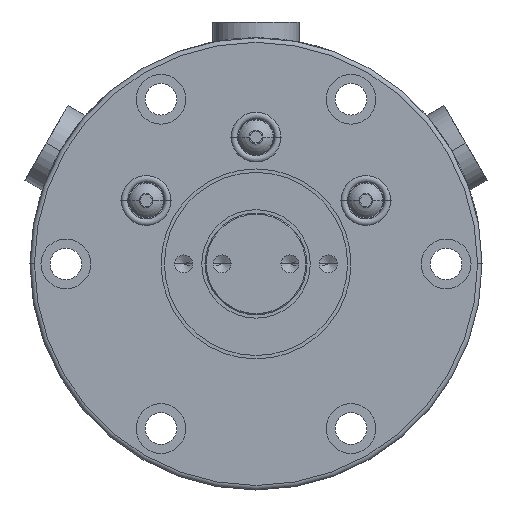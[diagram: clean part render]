
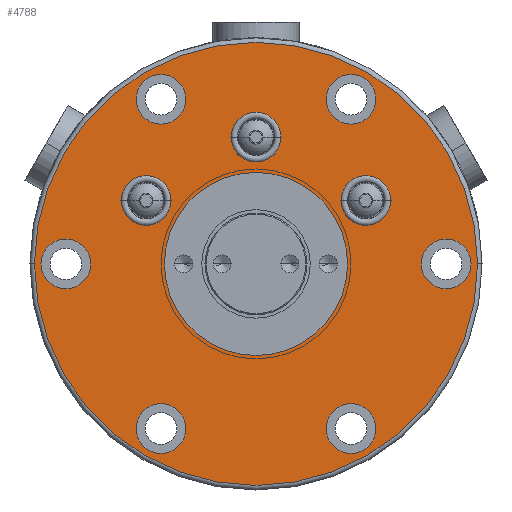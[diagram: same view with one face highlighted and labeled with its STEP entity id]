
A CAD part, left-side view. The second image highlights one B-rep face of the part: STEP entity #4788.
In plain terms, the highlighted planar face has unit normal (-1, 0, 0).
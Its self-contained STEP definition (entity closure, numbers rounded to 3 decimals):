
#780=CARTESIAN_POINT('',(0.,0.,0.));
#781=DIRECTION('',(-1.,0.,0.));
#782=DIRECTION('',(0.,1.,0.));
#783=AXIS2_PLACEMENT_3D('',#780,#781,#782);
#785=CARTESIAN_POINT('',(0.,0.,0.));
#786=DIRECTION('',(-1.,0.,0.));
#787=DIRECTION('',(0.,-1.,0.));
#788=AXIS2_PLACEMENT_3D('',#785,#786,#787);
#790=CARTESIAN_POINT('',(0.,42.05,0.));
#791=DIRECTION('',(1.,0.,0.));
#792=DIRECTION('',(0.,1.,0.));
#793=AXIS2_PLACEMENT_3D('',#790,#791,#792);
#795=CARTESIAN_POINT('',(0.,42.05,0.));
#796=DIRECTION('',(1.,0.,0.));
#797=DIRECTION('',(0.,-1.,0.));
#798=AXIS2_PLACEMENT_3D('',#795,#796,#797);
#800=CARTESIAN_POINT('',(0.,21.025,36.416));
#801=DIRECTION('',(1.,0.,0.));
#802=DIRECTION('',(0.,0.5,0.866));
#803=AXIS2_PLACEMENT_3D('',#800,#801,#802);
#805=CARTESIAN_POINT('',(0.,21.025,36.416));
#806=DIRECTION('',(1.,0.,0.));
#807=DIRECTION('',(0.,-0.5,-0.866));
#808=AXIS2_PLACEMENT_3D('',#805,#806,#807);
#810=CARTESIAN_POINT('',(0.,-21.025,36.416));
#811=DIRECTION('',(1.,0.,0.));
#812=DIRECTION('',(0.,-0.5,0.866));
#813=AXIS2_PLACEMENT_3D('',#810,#811,#812);
#815=CARTESIAN_POINT('',(0.,-21.025,36.416));
#816=DIRECTION('',(1.,0.,0.));
#817=DIRECTION('',(0.,0.5,-0.866));
#818=AXIS2_PLACEMENT_3D('',#815,#816,#817);
#820=CARTESIAN_POINT('',(0.,-42.05,0.));
#821=DIRECTION('',(1.,0.,0.));
#822=DIRECTION('',(0.,-1.,0.));
#823=AXIS2_PLACEMENT_3D('',#820,#821,#822);
#825=CARTESIAN_POINT('',(0.,-42.05,0.));
#826=DIRECTION('',(1.,0.,0.));
#827=DIRECTION('',(0.,1.,0.));
#828=AXIS2_PLACEMENT_3D('',#825,#826,#827);
#830=CARTESIAN_POINT('',(0.,-21.025,-36.416));
#831=DIRECTION('',(1.,0.,0.));
#832=DIRECTION('',(0.,-0.5,-0.866));
#833=AXIS2_PLACEMENT_3D('',#830,#831,#832);
#835=CARTESIAN_POINT('',(0.,-21.025,-36.416));
#836=DIRECTION('',(1.,0.,0.));
#837=DIRECTION('',(0.,0.5,0.866));
#838=AXIS2_PLACEMENT_3D('',#835,#836,#837);
#840=CARTESIAN_POINT('',(0.,21.025,-36.416));
#841=DIRECTION('',(1.,0.,0.));
#842=DIRECTION('',(0.,0.5,-0.866));
#843=AXIS2_PLACEMENT_3D('',#840,#841,#842);
#845=CARTESIAN_POINT('',(0.,21.025,-36.416));
#846=DIRECTION('',(1.,0.,0.));
#847=DIRECTION('',(0.,-0.5,0.866));
#848=AXIS2_PLACEMENT_3D('',#845,#846,#847);
#850=CARTESIAN_POINT('',(0.,0.,0.));
#851=DIRECTION('',(1.,0.,0.));
#852=DIRECTION('',(0.,1.,0.));
#853=AXIS2_PLACEMENT_3D('',#850,#851,#852);
#855=CARTESIAN_POINT('',(0.,0.,0.));
#856=DIRECTION('',(1.,0.,0.));
#857=DIRECTION('',(0.,-1.,0.));
#858=AXIS2_PLACEMENT_3D('',#855,#856,#857);
#860=CARTESIAN_POINT('',(0.,24.292,14.025));
#861=DIRECTION('',(1.,0.,0.));
#862=DIRECTION('',(0.,1.,0.));
#863=AXIS2_PLACEMENT_3D('',#860,#861,#862);
#865=CARTESIAN_POINT('',(0.,24.292,14.025));
#866=DIRECTION('',(1.,0.,0.));
#867=DIRECTION('',(0.,-1.,0.));
#868=AXIS2_PLACEMENT_3D('',#865,#866,#867);
#870=CARTESIAN_POINT('',(0.,0.,28.05));
#871=DIRECTION('',(1.,0.,0.));
#872=DIRECTION('',(0.,0.5,0.866));
#873=AXIS2_PLACEMENT_3D('',#870,#871,#872);
#875=CARTESIAN_POINT('',(0.,0.,28.05));
#876=DIRECTION('',(1.,0.,0.));
#877=DIRECTION('',(0.,-0.5,-0.866));
#878=AXIS2_PLACEMENT_3D('',#875,#876,#877);
#880=CARTESIAN_POINT('',(0.,-24.292,14.025));
#881=DIRECTION('',(1.,0.,0.));
#882=DIRECTION('',(0.,-0.5,0.866));
#883=AXIS2_PLACEMENT_3D('',#880,#881,#882);
#885=CARTESIAN_POINT('',(0.,-24.292,14.025));
#886=DIRECTION('',(1.,0.,0.));
#887=DIRECTION('',(0.,0.5,-0.866));
#888=AXIS2_PLACEMENT_3D('',#885,#886,#887);
#3521=CARTESIAN_POINT('',(0.,49.,0.));
#3522=CARTESIAN_POINT('',(0.,-49.,0.));
#3523=VERTEX_POINT('',#3521);
#3524=VERTEX_POINT('',#3522);
#3537=CARTESIAN_POINT('',(0.,47.55,0.));
#3538=CARTESIAN_POINT('',(0.,36.55,0.));
#3539=VERTEX_POINT('',#3537);
#3540=VERTEX_POINT('',#3538);
#3549=CARTESIAN_POINT('',(0.,23.775,41.18));
#3550=VERTEX_POINT('',#3549);
#3551=CARTESIAN_POINT('',(0.,18.275,31.653));
#3552=VERTEX_POINT('',#3551);
#3557=CARTESIAN_POINT('',(0.,-23.775,41.18));
#3558=VERTEX_POINT('',#3557);
#3559=CARTESIAN_POINT('',(0.,-18.275,31.653));
#3560=VERTEX_POINT('',#3559);
#3565=CARTESIAN_POINT('',(0.,-47.55,0.));
#3566=VERTEX_POINT('',#3565);
#3567=CARTESIAN_POINT('',(0.,-36.55,0.));
#3568=VERTEX_POINT('',#3567);
#3573=CARTESIAN_POINT('',(0.,-23.775,-41.18));
#3574=VERTEX_POINT('',#3573);
#3575=CARTESIAN_POINT('',(0.,-18.275,-31.653));
#3576=VERTEX_POINT('',#3575);
#3581=CARTESIAN_POINT('',(0.,23.775,-41.18));
#3582=VERTEX_POINT('',#3581);
#3583=CARTESIAN_POINT('',(0.,18.275,-31.653));
#3584=VERTEX_POINT('',#3583);
#3657=CARTESIAN_POINT('',(0.,20.25,0.));
#3658=CARTESIAN_POINT('',(0.,-20.25,0.));
#3659=VERTEX_POINT('',#3657);
#3660=VERTEX_POINT('',#3658);
#4212=CARTESIAN_POINT('',(0.,29.792,14.025));
#4213=CARTESIAN_POINT('',(0.,18.792,14.025));
#4214=VERTEX_POINT('',#4212);
#4215=VERTEX_POINT('',#4213);
#4240=CARTESIAN_POINT('',(0.,2.75,32.813));
#4241=VERTEX_POINT('',#4240);
#4242=CARTESIAN_POINT('',(0.,-2.75,23.287));
#4243=VERTEX_POINT('',#4242);
#4264=CARTESIAN_POINT('',(0.,-27.042,18.788));
#4265=VERTEX_POINT('',#4264);
#4266=CARTESIAN_POINT('',(0.,-21.542,9.262));
#4267=VERTEX_POINT('',#4266);
#4718=CARTESIAN_POINT('',(0.,0.,0.));
#4719=DIRECTION('',(1.,0.,0.));
#4720=DIRECTION('',(0.,-1.,0.));
#4721=AXIS2_PLACEMENT_3D('',#4718,#4719,#4720);
#4722=PLANE('',#4721);
#4724=ORIENTED_EDGE('',*,*,#4723,.F.);
#4725=ORIENTED_EDGE('',*,*,#4708,.F.);
#4726=EDGE_LOOP('',(#4724,#4725));
#4727=FACE_OUTER_BOUND('',#4726,.F.);
#4729=ORIENTED_EDGE('',*,*,#4728,.F.);
#4731=ORIENTED_EDGE('',*,*,#4730,.F.);
#4732=EDGE_LOOP('',(#4729,#4731));
#4733=FACE_BOUND('',#4732,.F.);
#4735=ORIENTED_EDGE('',*,*,#4734,.F.);
#4737=ORIENTED_EDGE('',*,*,#4736,.F.);
#4738=EDGE_LOOP('',(#4735,#4737));
#4739=FACE_BOUND('',#4738,.F.);
#4741=ORIENTED_EDGE('',*,*,#4740,.F.);
#4743=ORIENTED_EDGE('',*,*,#4742,.F.);
#4744=EDGE_LOOP('',(#4741,#4743));
#4745=FACE_BOUND('',#4744,.F.);
#4747=ORIENTED_EDGE('',*,*,#4746,.F.);
#4749=ORIENTED_EDGE('',*,*,#4748,.F.);
#4750=EDGE_LOOP('',(#4747,#4749));
#4751=FACE_BOUND('',#4750,.F.);
#4753=ORIENTED_EDGE('',*,*,#4752,.F.);
#4755=ORIENTED_EDGE('',*,*,#4754,.F.);
#4756=EDGE_LOOP('',(#4753,#4755));
#4757=FACE_BOUND('',#4756,.F.);
#4759=ORIENTED_EDGE('',*,*,#4758,.F.);
#4761=ORIENTED_EDGE('',*,*,#4760,.F.);
#4762=EDGE_LOOP('',(#4759,#4761));
#4763=FACE_BOUND('',#4762,.F.);
#4765=ORIENTED_EDGE('',*,*,#4764,.F.);
#4767=ORIENTED_EDGE('',*,*,#4766,.F.);
#4768=EDGE_LOOP('',(#4765,#4767));
#4769=FACE_BOUND('',#4768,.F.);
#4771=ORIENTED_EDGE('',*,*,#4770,.F.);
#4773=ORIENTED_EDGE('',*,*,#4772,.F.);
#4774=EDGE_LOOP('',(#4771,#4773));
#4775=FACE_BOUND('',#4774,.F.);
#4777=ORIENTED_EDGE('',*,*,#4776,.F.);
#4779=ORIENTED_EDGE('',*,*,#4778,.F.);
#4780=EDGE_LOOP('',(#4777,#4779));
#4781=FACE_BOUND('',#4780,.F.);
#4783=ORIENTED_EDGE('',*,*,#4782,.F.);
#4785=ORIENTED_EDGE('',*,*,#4784,.F.);
#4786=EDGE_LOOP('',(#4783,#4785));
#4787=FACE_BOUND('',#4786,.F.);
#4788=ADVANCED_FACE('',(#4727,#4733,#4739,#4745,#4751,#4757,#4763,#4769,#4775,
#4781,#4787),#4722,.F.);
#784=CIRCLE('',#783,49.);
#789=CIRCLE('',#788,49.);
#794=CIRCLE('',#793,5.5);
#799=CIRCLE('',#798,5.5);
#804=CIRCLE('',#803,5.5);
#809=CIRCLE('',#808,5.5);
#814=CIRCLE('',#813,5.5);
#819=CIRCLE('',#818,5.5);
#824=CIRCLE('',#823,5.5);
#829=CIRCLE('',#828,5.5);
#834=CIRCLE('',#833,5.5);
#839=CIRCLE('',#838,5.5);
#844=CIRCLE('',#843,5.5);
#849=CIRCLE('',#848,5.5);
#854=CIRCLE('',#853,20.25);
#859=CIRCLE('',#858,20.25);
#864=CIRCLE('',#863,5.5);
#869=CIRCLE('',#868,5.5);
#874=CIRCLE('',#873,5.5);
#879=CIRCLE('',#878,5.5);
#884=CIRCLE('',#883,5.5);
#889=CIRCLE('',#888,5.5);
#4708=EDGE_CURVE('',#3524,#3523,#789,.T.);
#4723=EDGE_CURVE('',#3523,#3524,#784,.T.);
#4728=EDGE_CURVE('',#3539,#3540,#794,.T.);
#4730=EDGE_CURVE('',#3540,#3539,#799,.T.);
#4734=EDGE_CURVE('',#3550,#3552,#804,.T.);
#4736=EDGE_CURVE('',#3552,#3550,#809,.T.);
#4740=EDGE_CURVE('',#3558,#3560,#814,.T.);
#4742=EDGE_CURVE('',#3560,#3558,#819,.T.);
#4746=EDGE_CURVE('',#3566,#3568,#824,.T.);
#4748=EDGE_CURVE('',#3568,#3566,#829,.T.);
#4752=EDGE_CURVE('',#3574,#3576,#834,.T.);
#4754=EDGE_CURVE('',#3576,#3574,#839,.T.);
#4758=EDGE_CURVE('',#3582,#3584,#844,.T.);
#4760=EDGE_CURVE('',#3584,#3582,#849,.T.);
#4764=EDGE_CURVE('',#3659,#3660,#854,.T.);
#4766=EDGE_CURVE('',#3660,#3659,#859,.T.);
#4770=EDGE_CURVE('',#4214,#4215,#864,.T.);
#4772=EDGE_CURVE('',#4215,#4214,#869,.T.);
#4776=EDGE_CURVE('',#4241,#4243,#874,.T.);
#4778=EDGE_CURVE('',#4243,#4241,#879,.T.);
#4782=EDGE_CURVE('',#4265,#4267,#884,.T.);
#4784=EDGE_CURVE('',#4267,#4265,#889,.T.);
